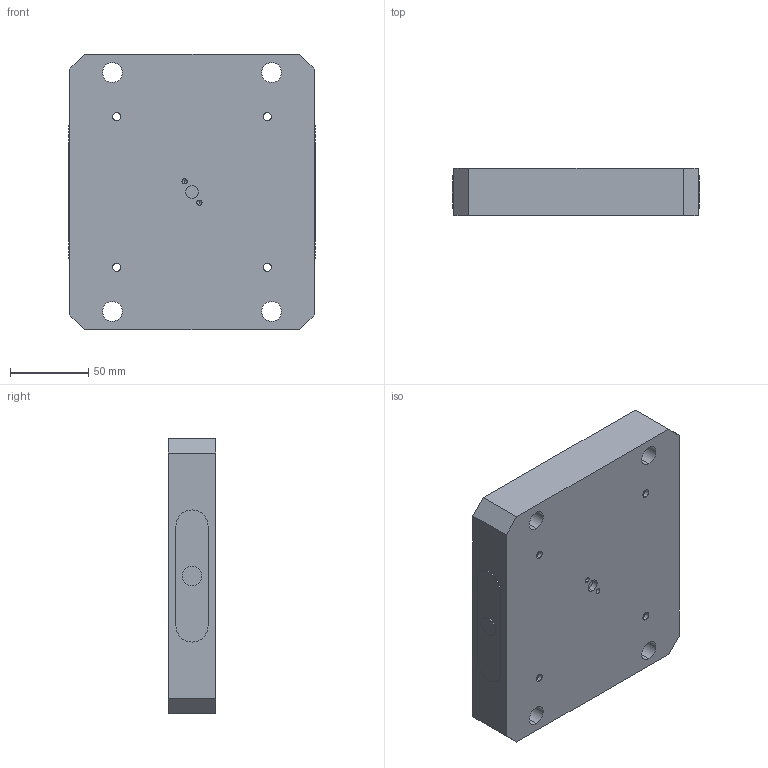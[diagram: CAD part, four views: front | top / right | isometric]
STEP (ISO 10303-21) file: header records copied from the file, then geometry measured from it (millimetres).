
FILE_DESCRIPTION (( 'STEP AP214' ), '1' );
FILE_NAME ('D_RL96A-67.STEP', '2020-03-11T16:20:46', ( '' ), ( '' ), 'SwSTEP 2.0', 'SolidWorks 2018', '' );
FILE_SCHEMA (( 'AUTOMOTIVE_DESIGN' ));
Length unit declared in the file: millimetre
Products named in the file (1): D_RL96A-67
Bounding box: 158 x 30 x 176 mm (x, y, z)
Volume: 653976.7 mm3; surface area: 114123.3 mm2
Topology: 1 solids, 1 shells, 179 faces, 444 edges, 290 vertices
Faces by surface type: cylinder 110, plane 61, cone 8
Entity records: 6456 total; most frequent: CARTESIAN_POINT 1390, DIRECTION 988, ORIENTED_EDGE 872, EDGE_CURVE 436, AXIS2_PLACEMENT_3D 402, VERTEX_POINT 290, EDGE_LOOP 234, CIRCLE 222
